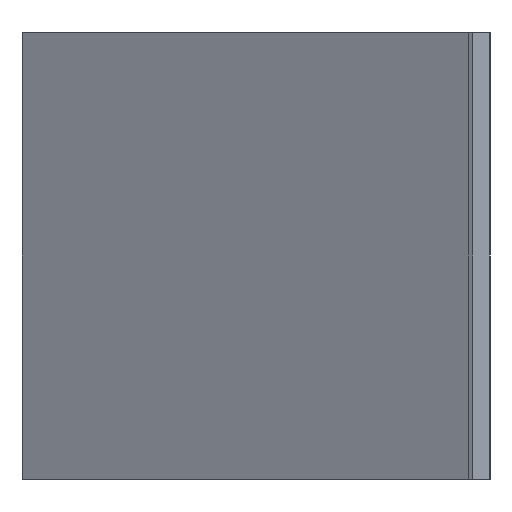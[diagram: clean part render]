
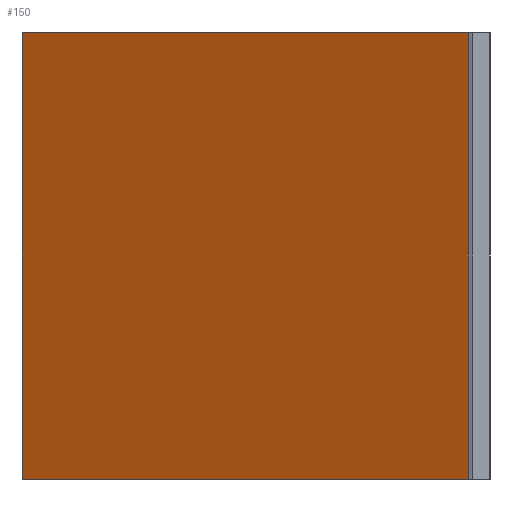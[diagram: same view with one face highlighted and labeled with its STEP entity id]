
A CAD part, left-side view. The second image highlights one B-rep face of the part: STEP entity #150.
In plain terms, the highlighted planar face has unit normal (0.875, -0.484, 0).
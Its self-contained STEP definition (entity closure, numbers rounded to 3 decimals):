
#98=CARTESIAN_POINT('Vertex',(20.,0.,0.)) ;
#101=CARTESIAN_POINT('Line Origine',(20.,0.,51.5)) ;
#105=CARTESIAN_POINT('Vertex',(20.,0.,103.)) ;
#120=CARTESIAN_POINT('Axis2P3D Location',(20.,0.,0.)) ;
#125=CARTESIAN_POINT('Line Origine',(48.5,51.5,0.)) ;
#129=CARTESIAN_POINT('Vertex',(77.,103.,0.)) ;
#132=CARTESIAN_POINT('Line Origine',(77.,103.,51.5)) ;
#136=CARTESIAN_POINT('Vertex',(77.,103.,103.)) ;
#139=CARTESIAN_POINT('Line Origine',(48.5,51.5,103.)) ;
#102=DIRECTION('Vector Direction',(0.,0.,1.)) ;
#121=DIRECTION('Axis2P3D Direction',(0.875,-0.484,0.)) ;
#122=DIRECTION('Axis2P3D XDirection',(0.484,0.875,0.)) ;
#126=DIRECTION('Vector Direction',(0.484,0.875,0.)) ;
#133=DIRECTION('Vector Direction',(0.,0.,1.)) ;
#140=DIRECTION('Vector Direction',(0.484,0.875,0.)) ;
#123=AXIS2_PLACEMENT_3D('Plane Axis2P3D',#120,#121,#122) ;
#145=ORIENTED_EDGE('',*,*,#107,.F.) ;
#146=ORIENTED_EDGE('',*,*,#131,.T.) ;
#147=ORIENTED_EDGE('',*,*,#138,.T.) ;
#148=ORIENTED_EDGE('',*,*,#143,.F.) ;
#103=VECTOR('Line Direction',#102,1.) ;
#127=VECTOR('Line Direction',#126,1.) ;
#134=VECTOR('Line Direction',#133,1.) ;
#141=VECTOR('Line Direction',#140,1.) ;
#150=ADVANCED_FACE('Extrude.1',(#149),#124,.T.) ;
#107=EDGE_CURVE('',#99,#106,#104,.T.) ;
#131=EDGE_CURVE('',#99,#130,#128,.T.) ;
#138=EDGE_CURVE('',#130,#137,#135,.T.) ;
#143=EDGE_CURVE('',#106,#137,#142,.T.) ;
#144=EDGE_LOOP('',(#145,#146,#147,#148)) ;
#149=FACE_OUTER_BOUND('',#144,.T.) ;
#104=LINE('Line',#101,#103) ;
#128=LINE('Line',#125,#127) ;
#135=LINE('Line',#132,#134) ;
#142=LINE('Line',#139,#141) ;
#124=PLANE('',#123) ;
#99=VERTEX_POINT('',#98) ;
#106=VERTEX_POINT('',#105) ;
#130=VERTEX_POINT('',#129) ;
#137=VERTEX_POINT('',#136) ;
